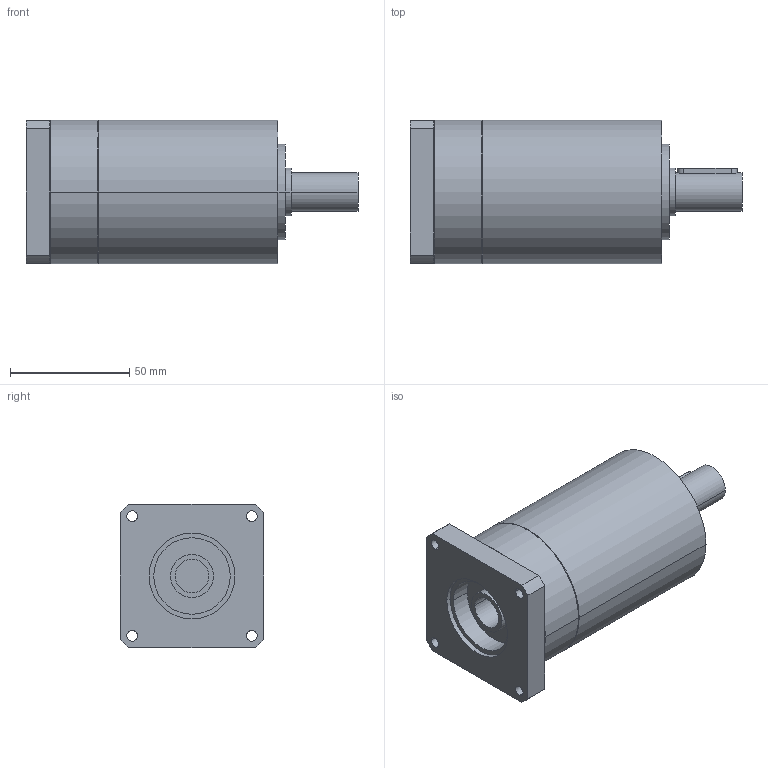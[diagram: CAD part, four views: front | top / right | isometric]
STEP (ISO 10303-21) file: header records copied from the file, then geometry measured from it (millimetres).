
FILE_DESCRIPTION(('CoCreate Modeling STEP Export'),'2;1');
FILE_NAME('GPR75_ig-9-12-16-20-24-30-36_16_B14_14_P22.stp','2014-08-25T16:03:33',(''),(''),'CoCreate Modeling STEP processor for AP214 (Solid Model)','CoCreate Modeling 16.00C 25-Feb-2009 (C) Parametric Technology GmbH','');
FILE_SCHEMA(('AUTOMOTIVE_DESIGN { 1 0 10303 214 1 1 1 1 }'));
Length unit declared in the file: millimetre
Products named in the file (2): GPR75_ig-9-12-16-20-24-30-36_16_B14_14_P22
Assembly tree (1 placements, depth 2):
  GPR75_ig-9-12-16-20-24-30-36_16_B14_14_P22
    GPR75_ig-9-12-16-20-24-30-36_16_B14_14_P22
Bounding box: 139 x 60 x 60 mm (x, y, z)
Volume: 302605 mm3; surface area: 37310.9 mm2
Topology: 1 solids, 1 shells, 73 faces, 197 edges, 139 vertices
Faces by surface type: cylinder 44, plane 23, cone 6
Entity records: 2019 total; most frequent: ORIENTED_EDGE 390, CARTESIAN_POINT 373, DIRECTION 272, EDGE_CURVE 195, VERTEX_POINT 139, AXIS2_PLACEMENT_3D 102, EDGE_LOOP 96, FACE_OUTER_BOUND 73
